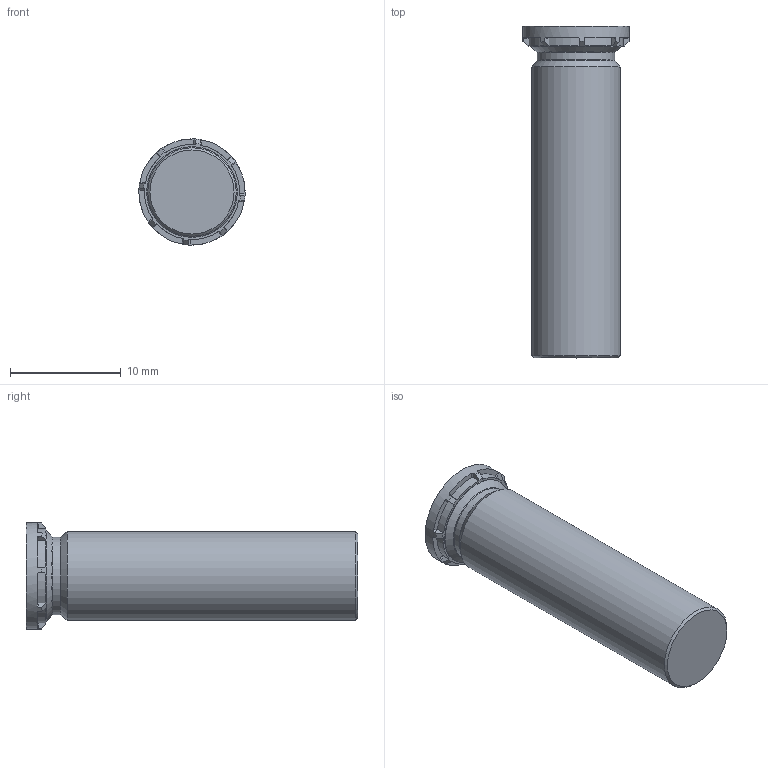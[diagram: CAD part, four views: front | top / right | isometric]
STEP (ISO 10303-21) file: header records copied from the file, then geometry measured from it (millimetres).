
FILE_DESCRIPTION(/* description */ (''),/* implementation_level */ '2;1');
FILE_NAME(/* name */ 'C:\Users\keval.kumar\Desktop\Fastit\Clinch Screw- FH Range\M8\Clinch Screw-FH Range_M8x30.stp',/* time_stamp */ '2024-03-12T12:18:06+06:00',/* author */ ('keval.kumar'),/* organization */ (''),/* preprocessor_version */ 'ST-DEVELOPER v18.1',/* originating_system */ 'Autodesk Inventor 2022',/* authorisation */ '');
FILE_SCHEMA (('AUTOMOTIVE_DESIGN { 1 0 10303 214 3 1 1 }'));
Length unit declared in the file: millimetre
Products named in the file (1): Clinch Screw-FH Range_M8x30
Bounding box: 9.6 x 30 x 9.6 mm (x, y, z)
Volume: 1522.5 mm3; surface area: 910.3 mm2
Topology: 1 solids, 1 shells, 68 faces, 193 edges, 128 vertices
Faces by surface type: plane 43, cylinder 12, cone 11, torus 2
Full cylindrical faces by diameter (mm): 7 x1, 8 x1, 8.2 x1, 9.6 x1
Entity records: 2278 total; most frequent: CARTESIAN_POINT 422, DIRECTION 405, ORIENTED_EDGE 386, EDGE_CURVE 193, AXIS2_PLACEMENT_3D 159, VERTEX_POINT 128, LINE 87, VECTOR 87
